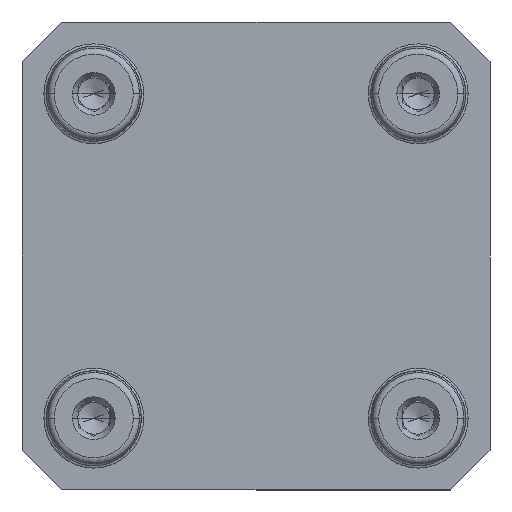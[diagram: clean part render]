
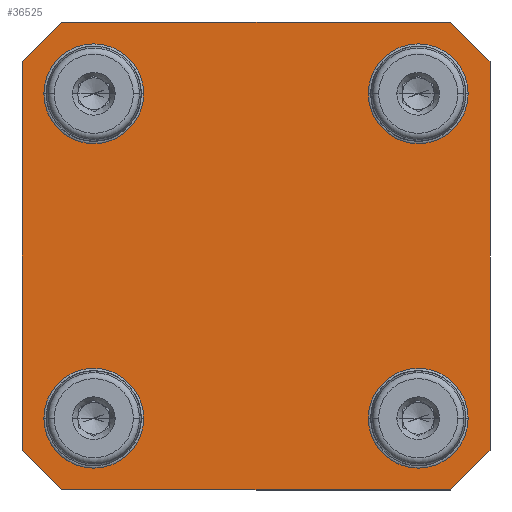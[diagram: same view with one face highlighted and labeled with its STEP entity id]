
A CAD part, front view. The second image highlights one B-rep face of the part: STEP entity #36525.
In plain terms, the highlighted planar face has unit normal (0, -1, 0).
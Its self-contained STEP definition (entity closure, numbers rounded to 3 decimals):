
#1037 = EDGE_CURVE ( 'NONE', #45834, #68576, #60903, .T. ) ;
#1055 = DIRECTION ( 'NONE',  ( 0., 0., -1. ) ) ;
#1293 = VECTOR ( 'NONE', #84045, 1000. ) ;
#2009 = EDGE_CURVE ( 'NONE', #39215, #13337, #67525, .T. ) ;
#2250 = CARTESIAN_POINT ( 'NONE',  ( -26., 0., -26. ) ) ;
#2751 = VERTEX_POINT ( 'NONE', #13075 ) ;
#2757 = ORIENTED_EDGE ( 'NONE', *, *, #79508, .T. ) ;
#4749 = EDGE_CURVE ( 'NONE', #68640, #2751, #84084, .T. ) ;
#7393 = EDGE_LOOP ( 'NONE', ( #67219, #43157 ) ) ;
#7520 = FACE_BOUND ( 'NONE', #7393, .T. ) ;
#7627 = CIRCLE ( 'NONE', #58114, 6.008 ) ;
#7943 = EDGE_CURVE ( 'NONE', #68576, #45834, #7627, .T. ) ;
#8473 = EDGE_CURVE ( 'NONE', #9895, #73453, #75329, .T. ) ;
#9054 = DIRECTION ( 'NONE',  ( 0., -1., 0. ) ) ;
#9578 = DIRECTION ( 'NONE',  ( 0., 0., 1. ) ) ;
#9895 = VERTEX_POINT ( 'NONE', #80088 ) ;
#11242 = CARTESIAN_POINT ( 'NONE',  ( 26., 0., -26. ) ) ;
#11400 = DIRECTION ( 'NONE',  ( -1., 0., 0. ) ) ;
#12017 = CARTESIAN_POINT ( 'NONE',  ( 26., 0., -32.008 ) ) ;
#12545 = DIRECTION ( 'NONE',  ( -0.707, 0., 0.707 ) ) ;
#13075 = CARTESIAN_POINT ( 'NONE',  ( -37.5, 0., 31.15 ) ) ;
#13337 = VERTEX_POINT ( 'NONE', #93804 ) ;
#13966 = ORIENTED_EDGE ( 'NONE', *, *, #8473, .F. ) ;
#14180 = DIRECTION ( 'NONE',  ( 0., -1., 0. ) ) ;
#15623 = CARTESIAN_POINT ( 'NONE',  ( -26., 0., -19.992 ) ) ;
#17989 = VERTEX_POINT ( 'NONE', #46121 ) ;
#18626 = DIRECTION ( 'NONE',  ( 0., 0., -1. ) ) ;
#18783 = EDGE_CURVE ( 'NONE', #88700, #2751, #64647, .T. ) ;
#18967 = VECTOR ( 'NONE', #77767, 1000. ) ;
#21038 = CARTESIAN_POINT ( 'NONE',  ( -34.325, 0., 34.325 ) ) ;
#23409 = EDGE_CURVE ( 'NONE', #54068, #51695, #56224, .T. ) ;
#23566 = PLANE ( 'NONE',  #85129 ) ;
#24160 = ORIENTED_EDGE ( 'NONE', *, *, #93273, .F. ) ;
#24563 = ORIENTED_EDGE ( 'NONE', *, *, #1037, .F. ) ;
#25172 = ORIENTED_EDGE ( 'NONE', *, *, #4749, .F. ) ;
#26321 = CARTESIAN_POINT ( 'NONE',  ( 37.5, 0., 37.5 ) ) ;
#27093 = FACE_BOUND ( 'NONE', #93390, .T. ) ;
#27356 = CARTESIAN_POINT ( 'NONE',  ( 26., 0., 19.992 ) ) ;
#27599 = AXIS2_PLACEMENT_3D ( 'NONE', #83484, #39519, #90800 ) ;
#27962 = DIRECTION ( 'NONE',  ( 1., 0., 0. ) ) ;
#29756 = VECTOR ( 'NONE', #11400, 1000. ) ;
#30011 = LINE ( 'NONE', #41610, #66831 ) ;
#30951 = DIRECTION ( 'NONE',  ( 0., 0., -1. ) ) ;
#32772 = CARTESIAN_POINT ( 'NONE',  ( -31.15, 0., 37.5 ) ) ;
#34447 = DIRECTION ( 'NONE',  ( 0., -1., 0. ) ) ;
#35214 = DIRECTION ( 'NONE',  ( 0., -1., 0. ) ) ;
#36276 = VERTEX_POINT ( 'NONE', #91955 ) ;
#36525 = ADVANCED_FACE ( 'NONE', ( #7520, #63944, #49022, #27093, #44377 ), #23566, .T. ) ;
#36829 = AXIS2_PLACEMENT_3D ( 'NONE', #79264, #35214, #86586 ) ;
#39215 = VERTEX_POINT ( 'NONE', #12017 ) ;
#39519 = DIRECTION ( 'NONE',  ( 0., -1., 0. ) ) ;
#40722 = LINE ( 'NONE', #93175, #77461 ) ;
#41067 = LINE ( 'NONE', #95050, #80109 ) ;
#41610 = CARTESIAN_POINT ( 'NONE',  ( 34.325, 0., -34.325 ) ) ;
#42217 = CARTESIAN_POINT ( 'NONE',  ( -26., 0., 32.008 ) ) ;
#42542 = DIRECTION ( 'NONE',  ( 0.707, 0., 0.707 ) ) ;
#42809 = VECTOR ( 'NONE', #79874, 1000. ) ;
#43157 = ORIENTED_EDGE ( 'NONE', *, *, #73478, .F. ) ;
#44377 = FACE_OUTER_BOUND ( 'NONE', #91390, .T. ) ;
#45119 = DIRECTION ( 'NONE',  ( 0., -1., 0. ) ) ;
#45227 = CARTESIAN_POINT ( 'NONE',  ( 31.15, 0., 37.5 ) ) ;
#45826 = EDGE_CURVE ( 'NONE', #9895, #73983, #40722, .T. ) ;
#45834 = VERTEX_POINT ( 'NONE', #27356 ) ;
#45922 = CIRCLE ( 'NONE', #27599, 6.008 ) ;
#46121 = CARTESIAN_POINT ( 'NONE',  ( -26., 0., -32.008 ) ) ;
#47813 = CARTESIAN_POINT ( 'NONE',  ( 26., 0., 32.008 ) ) ;
#48707 = EDGE_CURVE ( 'NONE', #88700, #73983, #41067, .T. ) ;
#49022 = FACE_BOUND ( 'NONE', #72972, .T. ) ;
#51612 = LINE ( 'NONE', #74400, #29756 ) ;
#51695 = VERTEX_POINT ( 'NONE', #42217 ) ;
#51793 = VECTOR ( 'NONE', #65250, 1000. ) ;
#53118 = CARTESIAN_POINT ( 'NONE',  ( -26., 0., 26. ) ) ;
#53314 = CARTESIAN_POINT ( 'NONE',  ( 37.5, 0., -31.15 ) ) ;
#53639 = DIRECTION ( 'NONE',  ( 0., -1., 0. ) ) ;
#54068 = VERTEX_POINT ( 'NONE', #63540 ) ;
#54145 = AXIS2_PLACEMENT_3D ( 'NONE', #58309, #14180, #65668 ) ;
#54652 = EDGE_LOOP ( 'NONE', ( #75912, #24160 ) ) ;
#56224 = CIRCLE ( 'NONE', #59087, 6.008 ) ;
#57860 = CARTESIAN_POINT ( 'NONE',  ( -34.325, 0., -34.325 ) ) ;
#58114 = AXIS2_PLACEMENT_3D ( 'NONE', #78493, #34447, #85846 ) ;
#58309 = CARTESIAN_POINT ( 'NONE',  ( 26., 0., -26. ) ) ;
#59059 = ORIENTED_EDGE ( 'NONE', *, *, #45826, .T. ) ;
#59087 = AXIS2_PLACEMENT_3D ( 'NONE', #89041, #45119, #1055 ) ;
#59137 = AXIS2_PLACEMENT_3D ( 'NONE', #53118, #9054, #60584 ) ;
#60584 = DIRECTION ( 'NONE',  ( 0., 0., -1. ) ) ;
#60903 = CIRCLE ( 'NONE', #36829, 6.008 ) ;
#61181 = AXIS2_PLACEMENT_3D ( 'NONE', #2250, #53639, #9578 ) ;
#61951 = CARTESIAN_POINT ( 'NONE',  ( -37.5, 0., 37.5 ) ) ;
#62577 = ORIENTED_EDGE ( 'NONE', *, *, #48707, .F. ) ;
#62749 = DIRECTION ( 'NONE',  ( 0., -1., 0. ) ) ;
#63540 = CARTESIAN_POINT ( 'NONE',  ( -26., 0., 19.992 ) ) ;
#63944 = FACE_BOUND ( 'NONE', #54652, .T. ) ;
#64647 = LINE ( 'NONE', #21038, #42809 ) ;
#65116 = EDGE_CURVE ( 'NONE', #51695, #54068, #79605, .T. ) ;
#65250 = DIRECTION ( 'NONE',  ( 0.707, 0., -0.707 ) ) ;
#65668 = DIRECTION ( 'NONE',  ( 0., 0., -1. ) ) ;
#65717 = ORIENTED_EDGE ( 'NONE', *, *, #7943, .F. ) ;
#66831 = VECTOR ( 'NONE', #42542, 1000. ) ;
#67219 = ORIENTED_EDGE ( 'NONE', *, *, #70317, .F. ) ;
#67278 = AXIS2_PLACEMENT_3D ( 'NONE', #11242, #62749, #18626 ) ;
#67525 = CIRCLE ( 'NONE', #54145, 6.008 ) ;
#67636 = CARTESIAN_POINT ( 'NONE',  ( 0., 0., 0. ) ) ;
#68576 = VERTEX_POINT ( 'NONE', #47813 ) ;
#68640 = VERTEX_POINT ( 'NONE', #92652 ) ;
#69599 = ORIENTED_EDGE ( 'NONE', *, *, #23409, .F. ) ;
#70317 = EDGE_CURVE ( 'NONE', #17989, #93762, #45922, .T. ) ;
#71744 = CARTESIAN_POINT ( 'NONE',  ( -31.15, 0., -37.5 ) ) ;
#72972 = EDGE_LOOP ( 'NONE', ( #24563, #65717 ) ) ;
#73453 = VERTEX_POINT ( 'NONE', #53314 ) ;
#73478 = EDGE_CURVE ( 'NONE', #93762, #17989, #79688, .T. ) ;
#73983 = VERTEX_POINT ( 'NONE', #45227 ) ;
#74280 = VERTEX_POINT ( 'NONE', #71744 ) ;
#74400 = CARTESIAN_POINT ( 'NONE',  ( -37.5, 0., -37.5 ) ) ;
#74501 = CIRCLE ( 'NONE', #67278, 6.008 ) ;
#74945 = DIRECTION ( 'NONE',  ( 0., -1., 0. ) ) ;
#75329 = LINE ( 'NONE', #26321, #18967 ) ;
#75912 = ORIENTED_EDGE ( 'NONE', *, *, #2009, .F. ) ;
#77461 = VECTOR ( 'NONE', #12545, 1000. ) ;
#77767 = DIRECTION ( 'NONE',  ( 0., 0., -1. ) ) ;
#78493 = CARTESIAN_POINT ( 'NONE',  ( 26., 0., 26. ) ) ;
#78947 = EDGE_CURVE ( 'NONE', #36276, #73453, #30011, .T. ) ;
#79264 = CARTESIAN_POINT ( 'NONE',  ( 26., 0., 26. ) ) ;
#79508 = EDGE_CURVE ( 'NONE', #68640, #74280, #90805, .T. ) ;
#79605 = CIRCLE ( 'NONE', #59137, 6.008 ) ;
#79688 = CIRCLE ( 'NONE', #61181, 6.008 ) ;
#79874 = DIRECTION ( 'NONE',  ( -0.707, 0., -0.707 ) ) ;
#80088 = CARTESIAN_POINT ( 'NONE',  ( 37.5, 0., 31.15 ) ) ;
#80109 = VECTOR ( 'NONE', #27962, 1000. ) ;
#80174 = EDGE_CURVE ( 'NONE', #36276, #74280, #51612, .T. ) ;
#81532 = ORIENTED_EDGE ( 'NONE', *, *, #65116, .F. ) ;
#82728 = ORIENTED_EDGE ( 'NONE', *, *, #78947, .T. ) ;
#83484 = CARTESIAN_POINT ( 'NONE',  ( -26., 0., -26. ) ) ;
#84045 = DIRECTION ( 'NONE',  ( 0., 0., 1. ) ) ;
#84084 = LINE ( 'NONE', #61951, #1293 ) ;
#85129 = AXIS2_PLACEMENT_3D ( 'NONE', #67636, #74945, #30951 ) ;
#85846 = DIRECTION ( 'NONE',  ( 0., 0., 1. ) ) ;
#86586 = DIRECTION ( 'NONE',  ( 0., 0., 1. ) ) ;
#87321 = ORIENTED_EDGE ( 'NONE', *, *, #18783, .T. ) ;
#88700 = VERTEX_POINT ( 'NONE', #32772 ) ;
#89041 = CARTESIAN_POINT ( 'NONE',  ( -26., 0., 26. ) ) ;
#90800 = DIRECTION ( 'NONE',  ( 0., 0., 1. ) ) ;
#90805 = LINE ( 'NONE', #57860, #51793 ) ;
#91280 = ORIENTED_EDGE ( 'NONE', *, *, #80174, .F. ) ;
#91390 = EDGE_LOOP ( 'NONE', ( #13966, #59059, #62577, #87321, #25172, #2757, #91280, #82728 ) ) ;
#91955 = CARTESIAN_POINT ( 'NONE',  ( 31.15, 0., -37.5 ) ) ;
#92652 = CARTESIAN_POINT ( 'NONE',  ( -37.5, 0., -31.15 ) ) ;
#93175 = CARTESIAN_POINT ( 'NONE',  ( 34.325, 0., 34.325 ) ) ;
#93273 = EDGE_CURVE ( 'NONE', #13337, #39215, #74501, .T. ) ;
#93390 = EDGE_LOOP ( 'NONE', ( #69599, #81532 ) ) ;
#93762 = VERTEX_POINT ( 'NONE', #15623 ) ;
#93804 = CARTESIAN_POINT ( 'NONE',  ( 26., 0., -19.992 ) ) ;
#95050 = CARTESIAN_POINT ( 'NONE',  ( -37.5, 0., 37.5 ) ) ;
